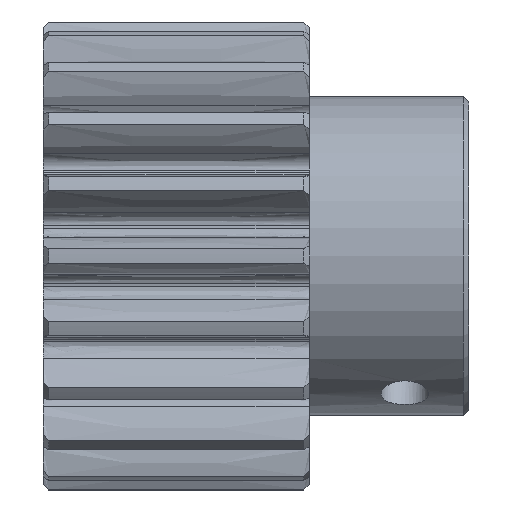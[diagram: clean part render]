
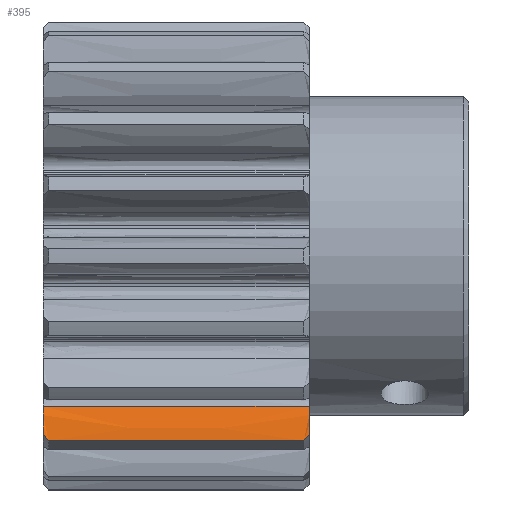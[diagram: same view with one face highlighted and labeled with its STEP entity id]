
A CAD part, front view. The second image highlights one B-rep face of the part: STEP entity #395.
In plain terms, the highlighted face is a extrusion surface.
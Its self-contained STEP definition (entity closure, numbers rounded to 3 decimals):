
#395=ADVANCED_FACE('',(#1898),#1900,.F.);
#1898=FACE_BOUND('',#1899,.T.);
#1899=EDGE_LOOP('',(#3332,#3333,#3334,#3335,#3336,#3337));
#1900=SURFACE_OF_LINEAR_EXTRUSION('',#1901,#1902);
#1901=B_SPLINE_CURVE_WITH_KNOTS('',3,
(#3338,#3339,#3340,#3341,#3342,#3343,#3344,#3345),
.UNSPECIFIED.,.F.,.F.,
(4,2,2,4),
(0.,0.351,0.684,1.),
.UNSPECIFIED.);
#1902=VECTOR('',#1903,25.);
#1903=DIRECTION('',(1.,0.,0.));
#3332=ORIENTED_EDGE('',*,*,#4773,.F.);
#3333=ORIENTED_EDGE('',*,*,#4503,.F.);
#3334=ORIENTED_EDGE('',*,*,#4772,.F.);
#3335=ORIENTED_EDGE('',*,*,#4696,.F.);
#3336=ORIENTED_EDGE('',*,*,#4774,.F.);
#3337=ORIENTED_EDGE('',*,*,#4775,.F.);
#3338=CARTESIAN_POINT('',(0.,-13.487,-17.381));
#3339=CARTESIAN_POINT('',(0.,-13.445,-16.977));
#3340=CARTESIAN_POINT('',(0.,-13.377,-16.58));
#3341=CARTESIAN_POINT('',(0.,-13.193,-15.816));
#3342=CARTESIAN_POINT('',(0.,-13.09,-15.442));
#3343=CARTESIAN_POINT('',(0.,-12.804,-14.756));
#3344=CARTESIAN_POINT('',(0.,-12.634,-14.436));
#3345=CARTESIAN_POINT('',(0.,-12.434,-14.128));
#4503=EDGE_CURVE('',#5055,#5057,#5058,.F.);
#4696=EDGE_CURVE('',#5441,#5443,#5444,.T.);
#4772=EDGE_CURVE('',#5443,#5055,#5562,.T.);
#4773=EDGE_CURVE('',#5057,#5563,#5564,.F.);
#4774=EDGE_CURVE('',#5565,#5441,#5566,.T.);
#4775=EDGE_CURVE('',#5563,#5565,#5567,.F.);
#5055=VERTEX_POINT('',#6231);
#5057=VERTEX_POINT('',#6240);
#5058=TRIMMED_CURVE('',#6241,(PARAMETER_VALUE(0.168)),(PARAMETER_VALUE(
1.)),.T.,.PARAMETER.);
#5441=VERTEX_POINT('',#7264);
#5443=VERTEX_POINT('',#7269);
#5444=TRIMMED_CURVE('',#7270,(PARAMETER_VALUE(0.168)),(PARAMETER_VALUE(
1.)),.T.,.PARAMETER.);
#5562=LINE('',#7644,#7645);
#5563=VERTEX_POINT('',#7647);
#5564=B_SPLINE_CURVE_WITH_KNOTS('',3,
(#7648,#7649,#7650,#7651,#7652,#7653,#7654),
.UNSPECIFIED.,.F.,.F.,
(4,1,1,1,4),
(0.,0.22,0.46,0.72,1.),
.UNSPECIFIED.);
#5565=VERTEX_POINT('',#7655);
#5566=B_SPLINE_CURVE_WITH_KNOTS('',3,
(#7656,#7657,#7658,#7659,#7660,#7661,#7662),
.UNSPECIFIED.,.F.,.F.,
(4,1,1,1,4),
(0.,0.22,0.46,0.72,1.),
.UNSPECIFIED.);
#5567=LINE('',#7663,#7664);
#6231=CARTESIAN_POINT('',(25.,-12.434,-14.128));
#6240=CARTESIAN_POINT('',(25.,-13.409,-16.806));
#6241=B_SPLINE_CURVE_WITH_KNOTS('',3,
(#8652,#8653,#8654,#8655,#8656,#8657,#8658,#8659),
.UNSPECIFIED.,.F.,.F.,
(4,2,2,4),
(0.,0.351,0.684,1.),
.UNSPECIFIED.);
#7264=CARTESIAN_POINT('',(0.,-13.409,-16.806));
#7269=CARTESIAN_POINT('',(0.,-12.434,-14.128));
#7270=B_SPLINE_CURVE_WITH_KNOTS('',3,
(#9164,#9165,#9166,#9167,#9168,#9169,#9170,#9171),
.UNSPECIFIED.,.F.,.F.,
(4,2,2,4),
(0.,0.351,0.684,1.),
.UNSPECIFIED.);
#7644=CARTESIAN_POINT('',(0.,-12.434,-14.128));
#7645=VECTOR('',#7646,1.);
#7646=DIRECTION('',(1.,0.,0.));
#7647=CARTESIAN_POINT('',(24.5,-13.487,-17.381));
#7648=CARTESIAN_POINT('',(24.5,-13.487,-17.381));
#7649=CARTESIAN_POINT('',(24.536,-13.482,-17.339));
#7650=CARTESIAN_POINT('',(24.613,-13.473,-17.25));
#7651=CARTESIAN_POINT('',(24.732,-13.455,-17.111));
#7652=CARTESIAN_POINT('',(24.862,-13.434,-16.962));
#7653=CARTESIAN_POINT('',(24.953,-13.418,-16.859));
#7654=CARTESIAN_POINT('',(25.,-13.409,-16.806));
#7655=CARTESIAN_POINT('',(0.5,-13.487,-17.381));
#7656=CARTESIAN_POINT('',(0.5,-13.487,-17.381));
#7657=CARTESIAN_POINT('',(0.464,-13.482,-17.339));
#7658=CARTESIAN_POINT('',(0.387,-13.473,-17.25));
#7659=CARTESIAN_POINT('',(0.268,-13.455,-17.111));
#7660=CARTESIAN_POINT('',(0.138,-13.434,-16.962));
#7661=CARTESIAN_POINT('',(0.047,-13.418,-16.859));
#7662=CARTESIAN_POINT('',(0.,-13.409,-16.806));
#7663=CARTESIAN_POINT('',(0.5,-13.487,-17.381));
#7664=VECTOR('',#7665,1.);
#7665=DIRECTION('',(1.,0.,0.));
#8652=CARTESIAN_POINT('',(25.,-13.487,-17.381));
#8653=CARTESIAN_POINT('',(25.,-13.445,-16.977));
#8654=CARTESIAN_POINT('',(25.,-13.377,-16.58));
#8655=CARTESIAN_POINT('',(25.,-13.193,-15.816));
#8656=CARTESIAN_POINT('',(25.,-13.09,-15.442));
#8657=CARTESIAN_POINT('',(25.,-12.804,-14.756));
#8658=CARTESIAN_POINT('',(25.,-12.634,-14.436));
#8659=CARTESIAN_POINT('',(25.,-12.434,-14.128));
#9164=CARTESIAN_POINT('',(0.,-13.487,-17.381));
#9165=CARTESIAN_POINT('',(0.,-13.445,-16.977));
#9166=CARTESIAN_POINT('',(0.,-13.377,-16.58));
#9167=CARTESIAN_POINT('',(0.,-13.193,-15.816));
#9168=CARTESIAN_POINT('',(0.,-13.09,-15.442));
#9169=CARTESIAN_POINT('',(0.,-12.804,-14.756));
#9170=CARTESIAN_POINT('',(0.,-12.634,-14.436));
#9171=CARTESIAN_POINT('',(0.,-12.434,-14.128));
